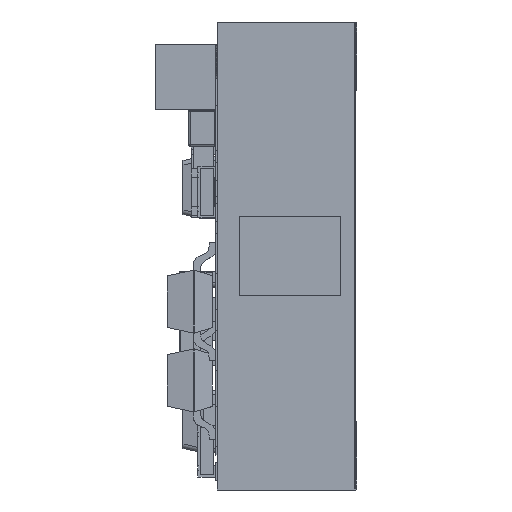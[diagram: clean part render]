
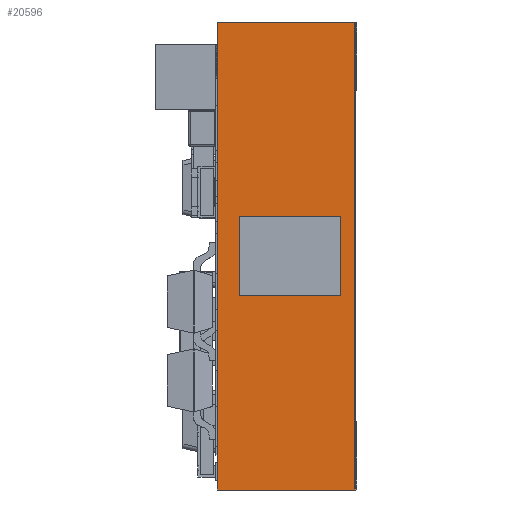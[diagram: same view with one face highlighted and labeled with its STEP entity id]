
A CAD part, left-side view. The second image highlights one B-rep face of the part: STEP entity #20596.
In plain terms, the highlighted planar face has unit normal (-1, 0, 0).
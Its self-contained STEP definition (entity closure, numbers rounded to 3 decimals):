
#310 = VERTEX_POINT ( 'NONE', #33030 ) ;
#580 = VECTOR ( 'NONE', #38545, 1000. ) ;
#682 = VECTOR ( 'NONE', #27647, 1000. ) ;
#956 = LINE ( 'NONE', #46814, #50687 ) ;
#1583 = ORIENTED_EDGE ( 'NONE', *, *, #34092, .F. ) ;
#3444 = FACE_BOUND ( 'NONE', #20003, .T. ) ;
#3451 = VERTEX_POINT ( 'NONE', #12522 ) ;
#4862 = CARTESIAN_POINT ( 'NONE',  ( -109.897, 361.317, 3.05 ) ) ;
#5355 = CARTESIAN_POINT ( 'NONE',  ( -109.897, 371.731, 3.05 ) ) ;
#5383 = DIRECTION ( 'NONE',  ( 1., 0., 0. ) ) ;
#6015 = VERTEX_POINT ( 'NONE', #5355 ) ;
#6162 = DIRECTION ( 'NONE',  ( 0., 0., -1. ) ) ;
#6660 = CARTESIAN_POINT ( 'NONE',  ( -109.897, 367.413, 0.31 ) ) ;
#8804 = VECTOR ( 'NONE', #41215, 1000. ) ;
#8996 = DIRECTION ( 'NONE',  ( 0., 0., -1. ) ) ;
#9339 = PLANE ( 'NONE',  #18158 ) ;
#11040 = LINE ( 'NONE', #18472, #18046 ) ;
#12522 = CARTESIAN_POINT ( 'NONE',  ( -109.897, 367.413, 2.56 ) ) ;
#12813 = ORIENTED_EDGE ( 'NONE', *, *, #12884, .T. ) ;
#12884 = EDGE_CURVE ( 'NONE', #17860, #310, #11040, .T. ) ;
#13924 = ORIENTED_EDGE ( 'NONE', *, *, #45443, .F. ) ;
#14237 = CARTESIAN_POINT ( 'NONE',  ( -109.897, 371.731, 0. ) ) ;
#14264 = FACE_OUTER_BOUND ( 'NONE', #34438, .T. ) ;
#15874 = ORIENTED_EDGE ( 'NONE', *, *, #26350, .T. ) ;
#17196 = EDGE_CURVE ( 'NONE', #3451, #17860, #30450, .T. ) ;
#17860 = VERTEX_POINT ( 'NONE', #29035 ) ;
#18014 = LINE ( 'NONE', #14237, #27541 ) ;
#18035 = EDGE_CURVE ( 'NONE', #6015, #32767, #956, .T. ) ;
#18046 = VECTOR ( 'NONE', #6162, 1000. ) ;
#18158 = AXIS2_PLACEMENT_3D ( 'NONE', #29764, #5383, #33849 ) ;
#18472 = CARTESIAN_POINT ( 'NONE',  ( -109.897, 365.635, 2.56 ) ) ;
#19190 = VERTEX_POINT ( 'NONE', #6660 ) ;
#20003 = EDGE_LOOP ( 'NONE', ( #13924, #45104, #12813, #20101 ) ) ;
#20101 = ORIENTED_EDGE ( 'NONE', *, *, #46431, .F. ) ;
#20596 = ADVANCED_FACE ( 'NONE', ( #3444, #14264 ), #9339, .F. ) ;
#26350 = EDGE_CURVE ( 'NONE', #32767, #26456, #18014, .T. ) ;
#26456 = VERTEX_POINT ( 'NONE', #51996 ) ;
#27541 = VECTOR ( 'NONE', #46804, 1000. ) ;
#27647 = DIRECTION ( 'NONE',  ( 0., 0., -1. ) ) ;
#28087 = ORIENTED_EDGE ( 'NONE', *, *, #51451, .F. ) ;
#29035 = CARTESIAN_POINT ( 'NONE',  ( -109.897, 365.635, 2.56 ) ) ;
#29764 = CARTESIAN_POINT ( 'NONE',  ( -109.897, 371.731, 3.05 ) ) ;
#30293 = DIRECTION ( 'NONE',  ( 0., 0., -1. ) ) ;
#30450 = LINE ( 'NONE', #33011, #8804 ) ;
#31910 = LINE ( 'NONE', #52084, #682 ) ;
#32465 = VECTOR ( 'NONE', #42684, 1000. ) ;
#32767 = VERTEX_POINT ( 'NONE', #43869 ) ;
#33011 = CARTESIAN_POINT ( 'NONE',  ( -109.897, 367.413, 2.56 ) ) ;
#33030 = CARTESIAN_POINT ( 'NONE',  ( -109.897, 365.635, 0.31 ) ) ;
#33053 = LINE ( 'NONE', #34459, #580 ) ;
#33849 = DIRECTION ( 'NONE',  ( 0., 0., -1. ) ) ;
#34092 = EDGE_CURVE ( 'NONE', #6015, #37221, #33053, .T. ) ;
#34438 = EDGE_LOOP ( 'NONE', ( #15874, #28087, #1583, #37240 ) ) ;
#34459 = CARTESIAN_POINT ( 'NONE',  ( -109.897, 371.731, 3.05 ) ) ;
#37221 = VERTEX_POINT ( 'NONE', #50653 ) ;
#37240 = ORIENTED_EDGE ( 'NONE', *, *, #18035, .T. ) ;
#38152 = LINE ( 'NONE', #50560, #32465 ) ;
#38545 = DIRECTION ( 'NONE',  ( 0., -1., 0. ) ) ;
#38978 = VECTOR ( 'NONE', #8996, 1000. ) ;
#41215 = DIRECTION ( 'NONE',  ( 0., -1., 0. ) ) ;
#42684 = DIRECTION ( 'NONE',  ( 0., -1., 0. ) ) ;
#43869 = CARTESIAN_POINT ( 'NONE',  ( -109.897, 371.731, 0. ) ) ;
#45104 = ORIENTED_EDGE ( 'NONE', *, *, #17196, .T. ) ;
#45443 = EDGE_CURVE ( 'NONE', #3451, #19190, #31910, .T. ) ;
#46431 = EDGE_CURVE ( 'NONE', #19190, #310, #38152, .T. ) ;
#46804 = DIRECTION ( 'NONE',  ( 0., -1., 0. ) ) ;
#46814 = CARTESIAN_POINT ( 'NONE',  ( -109.897, 371.731, 3.05 ) ) ;
#50560 = CARTESIAN_POINT ( 'NONE',  ( -109.897, 367.413, 0.31 ) ) ;
#50653 = CARTESIAN_POINT ( 'NONE',  ( -109.897, 361.317, 3.05 ) ) ;
#50687 = VECTOR ( 'NONE', #30293, 1000. ) ;
#51128 = LINE ( 'NONE', #4862, #38978 ) ;
#51451 = EDGE_CURVE ( 'NONE', #37221, #26456, #51128, .T. ) ;
#51996 = CARTESIAN_POINT ( 'NONE',  ( -109.897, 361.317, 0. ) ) ;
#52084 = CARTESIAN_POINT ( 'NONE',  ( -109.897, 367.413, 2.56 ) ) ;
